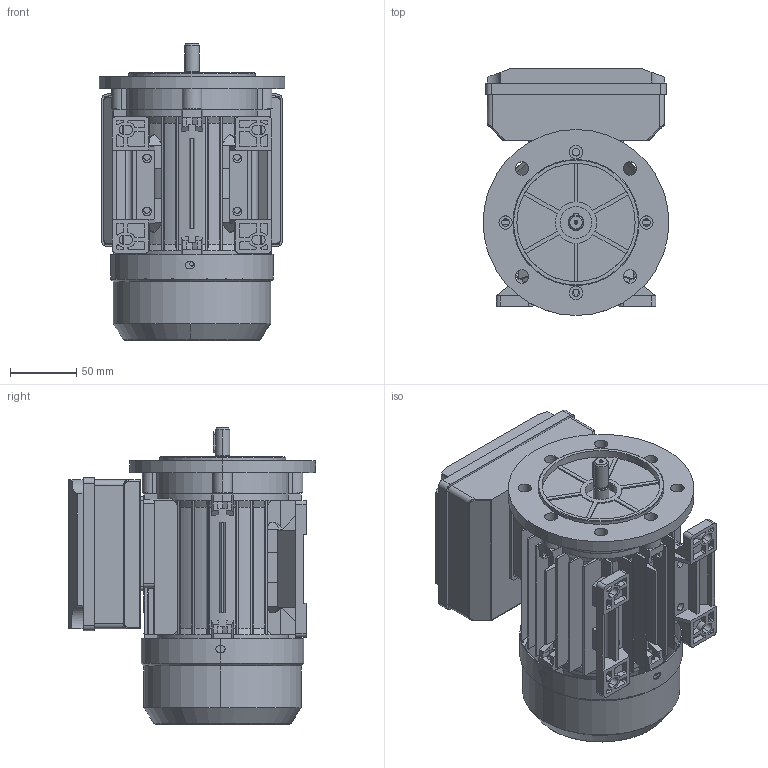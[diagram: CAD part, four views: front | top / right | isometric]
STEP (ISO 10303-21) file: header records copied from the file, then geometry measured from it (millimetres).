
FILE_DESCRIPTION (( 'STEP AP214' ), '1' );
FILE_NAME ('ML63_B35.STEP', '2019-02-01T13:35:47', ( '' ), ( '' ), 'SwSTEP 2.0', 'SolidWorks 2012', '' );
FILE_SCHEMA (( 'AUTOMOTIVE_DESIGN' ));
Length unit declared in the file: millimetre
Products named in the file (10): Klemmenkastendeckel_ML63; Klemmenkastenunterteil_ML63; Fuss_MS63; B5-Flansch_MS63; L黤terfl黦el_MS63; Teil3^ML63_B35; Lüfterhaube_MS63; B-Lagerschild_MS63; Gehäuse_MS63; ML63_B35
Assembly tree (9 placements, depth 2):
  Teil3^ML63_B35
  ML63_B35
    Gehäuse_MS63
    B-Lagerschild_MS63
    Lüfterhaube_MS63
    L黤terfl黦el_MS63
    B5-Flansch_MS63
    Fuss_MS63  x2
    Klemmenkastenunterteil_ML63
    Klemmenkastendeckel_ML63
Bounding box: 140 x 186 x 223.31 mm (x, y, z)
Volume: 652420.8 mm3; surface area: 459080.3 mm2
Topology: 9 solids, 9 shells, 1593 faces, 4309 edges, 2792 vertices
Faces by surface type: plane 899, cylinder 506, cone 101, bspline 85, sphere 2
Entity records: 49707 total; most frequent: CARTESIAN_POINT 12506, ORIENTED_EDGE 7922, DIRECTION 7357, EDGE_CURVE 3961, VERTEX_POINT 2566, AXIS2_PLACEMENT_3D 2463, VECTOR 2431, LINE 2431
